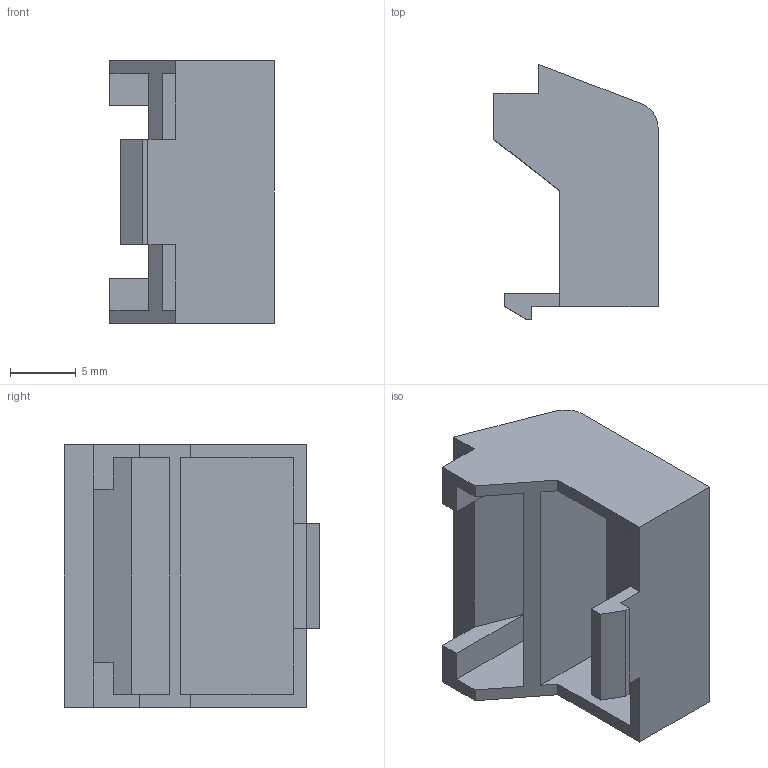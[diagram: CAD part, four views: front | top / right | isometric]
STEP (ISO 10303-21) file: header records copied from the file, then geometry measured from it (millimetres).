
FILE_DESCRIPTION(('FreeCAD Model'),'2;1');
FILE_NAME('Open CASCADE Shape Model','2023-04-26T11:29:58',('Author'),( ''),'Open CASCADE STEP processor 7.6','FreeCAD','Unknown');
FILE_SCHEMA(('AUTOMOTIVE_DESIGN { 1 0 10303 214 1 1 1 1 }'));
Length unit declared in the file: millimetre
Products named in the file (1): CPME-TC04
Bounding box: 12.5 x 19.4 x 20 mm (x, y, z)
Volume: 1308.9 mm3; surface area: 2132.9 mm2
Topology: 1 solids, 1 shells, 34 faces, 94 edges, 62 vertices
Faces by surface type: plane 33, cylinder 1
Entity records: 2311 total; most frequent: CARTESIAN_POINT 385, DIRECTION 353, LINE 278, VECTOR 278, ORIENTED_EDGE 188, PCURVE 188, DEFINITIONAL_REPRESENTATION 188, EDGE_CURVE 94
